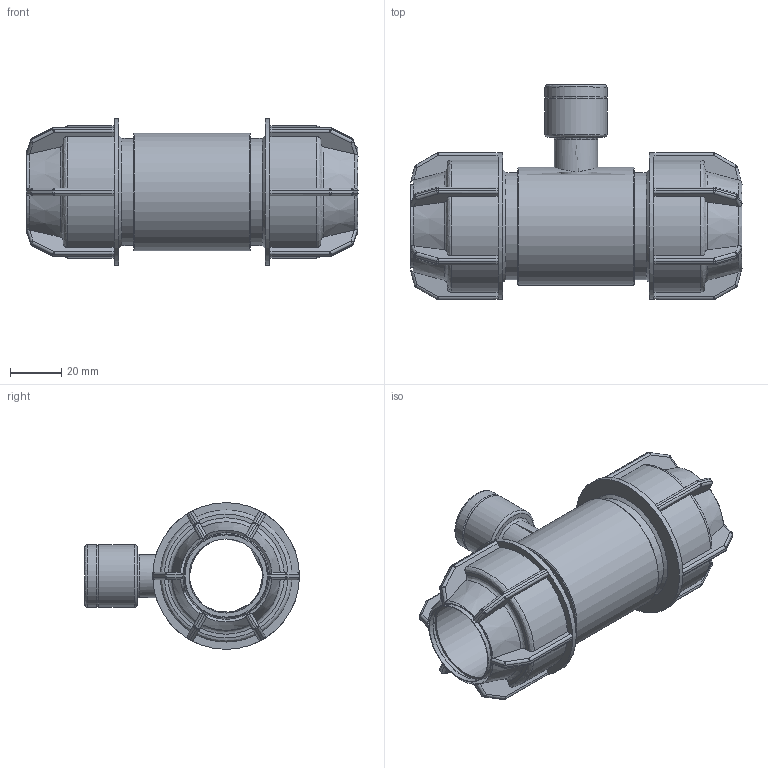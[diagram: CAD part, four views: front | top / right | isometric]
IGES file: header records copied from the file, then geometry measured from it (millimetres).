
Global section: file name: 041407032007.ipt; native system: Autodesk Inventor 2015; preprocessor: unknown; author: KIM; date: 20180409.130652; units: millimetre
Bounding box: 129 x 83.5 x 57 mm (x, y, z)
Volume: 129203.2 mm3; surface area: 44166.6 mm2
Topology: 1 solids, 1 shells, 420 faces, 1022 edges, 598 vertices
Faces by surface type: plane 201, cylinder 116, sphere 48, revolution 39, cone 16
Full cylindrical faces by diameter (mm): 16.768 x1, 24.22 x2, 41.6 x2, 45.76 x1, 57 x2
